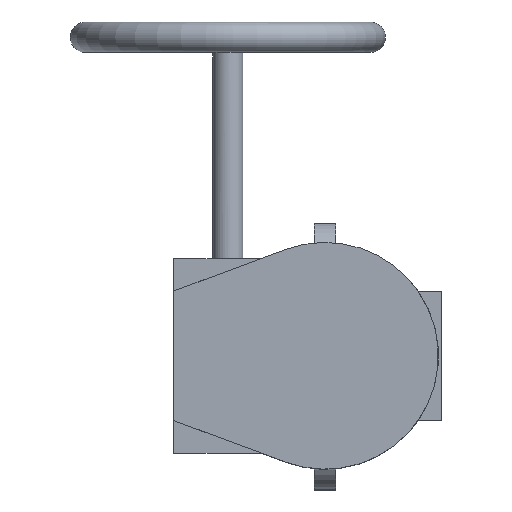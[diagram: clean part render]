
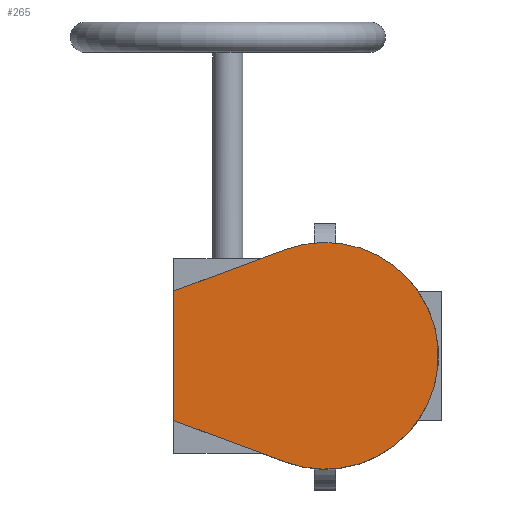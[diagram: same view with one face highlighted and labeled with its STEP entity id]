
A CAD part, top view. The second image highlights one B-rep face of the part: STEP entity #265.
In plain terms, the highlighted planar face has unit normal (0, 0, 1).
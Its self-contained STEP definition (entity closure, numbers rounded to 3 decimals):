
#265=ADVANCED_FACE('',(#6066),#6068,.T.);
#6066=FACE_BOUND('',#6067,.T.);
#6067=EDGE_LOOP('',(#10660,#10661,#10662,#10663));
#6068=PLANE('',#6069);
#6069=AXIS2_PLACEMENT_3D('',#6070,#6071,#6072);
#6070=CARTESIAN_POINT('',(0.,0.,226.));
#6071=DIRECTION('',(0.,0.,1.));
#6072=DIRECTION('',(0.,1.,0.));
#10660=ORIENTED_EDGE('',*,*,#14288,.T.);
#10661=ORIENTED_EDGE('',*,*,#14284,.T.);
#10662=ORIENTED_EDGE('',*,*,#14277,.T.);
#10663=ORIENTED_EDGE('',*,*,#14272,.T.);
#14272=EDGE_CURVE('',#16169,#16167,#16170,.T.);
#14277=EDGE_CURVE('',#16177,#16169,#16178,.T.);
#14284=EDGE_CURVE('',#16190,#16177,#16191,.T.);
#14288=EDGE_CURVE('',#16167,#16190,#16196,.T.);
#16167=VERTEX_POINT('',#19325);
#16169=VERTEX_POINT('',#19329);
#16170=LINE('',#19330,#19331);
#16177=VERTEX_POINT('',#19347);
#16178=LINE('',#19348,#19349);
#16190=VERTEX_POINT('',#19374);
#16191=LINE('',#19375,#19376);
#16196=CIRCLE('',#19388,52.5);
#19325=CARTESIAN_POINT('',(-18.284,-49.213,226.));
#19329=CARTESIAN_POINT('',(-70.,-30.,226.));
#19330=CARTESIAN_POINT('',(-70.,-30.,226.));
#19331=VECTOR('',#19332,1.);
#19332=DIRECTION('',(0.937,-0.348,0.));
#19347=CARTESIAN_POINT('',(-70.,30.,226.));
#19348=CARTESIAN_POINT('',(-70.,30.,226.));
#19349=VECTOR('',#19350,1.);
#19350=DIRECTION('',(0.,-1.,0.));
#19374=CARTESIAN_POINT('',(-18.284,49.213,226.));
#19375=CARTESIAN_POINT('',(-18.284,49.213,226.));
#19376=VECTOR('',#19377,1.);
#19377=DIRECTION('',(-0.937,-0.348,0.));
#19388=AXIS2_PLACEMENT_3D('',#19389,#19390,#19391);
#19389=CARTESIAN_POINT('',(0.,0.,226.));
#19390=DIRECTION('',(0.,0.,1.));
#19391=DIRECTION('',(-0.348,-0.937,0.));
